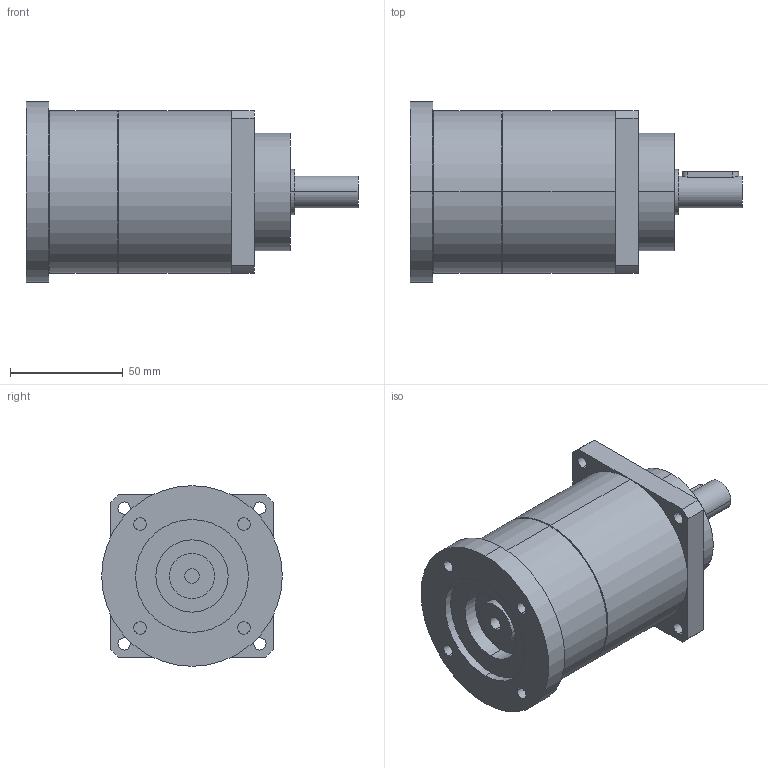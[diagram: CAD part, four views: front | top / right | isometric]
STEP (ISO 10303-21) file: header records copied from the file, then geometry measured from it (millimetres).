
FILE_DESCRIPTION(('CoCreate Modeling STEP Export'),'2;1');
FILE_NAME('GPT75_ig-9-12-16-20-25-28-35-40-50-70-100_14_B5T_6.35_P13.stp','2014-08-27T13:38:45',(''),(''),'CoCreate Modeling STEP processor for AP214 (Solid Model)','CoCreate Modeling 16.00C 25-Feb-2009 (C) Parametric Technology GmbH','');
FILE_SCHEMA(('AUTOMOTIVE_DESIGN { 1 0 10303 214 1 1 1 1 }'));
Length unit declared in the file: millimetre
Products named in the file (2): GPT75_ig-9-12-16-20-25-28-35-40-50-70-100_14_B5T_6.35_P13
Assembly tree (1 placements, depth 2):
  GPT75_ig-9-12-16-20-25-28-35-40-50-70-100_14_B5T_6.35_P13
    GPT75_ig-9-12-16-20-25-28-35-40-50-70-100_14_B5T_6.35_P13
Bounding box: 147 x 80 x 80 mm (x, y, z)
Volume: 456629.1 mm3; surface area: 43724.1 mm2
Topology: 1 solids, 1 shells, 75 faces, 178 edges, 119 vertices
Faces by surface type: cylinder 44, plane 27, cone 4
Entity records: 2281 total; most frequent: CARTESIAN_POINT 682, ORIENTED_EDGE 356, DIRECTION 280, EDGE_CURVE 178, VERTEX_POINT 119, AXIS2_PLACEMENT_3D 105, EDGE_LOOP 97, FACE_OUTER_BOUND 75
